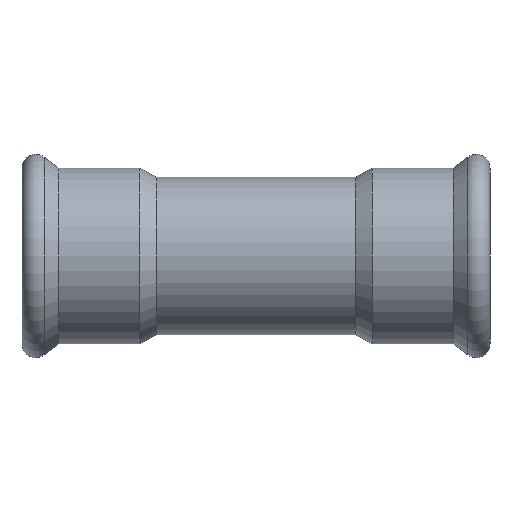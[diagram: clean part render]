
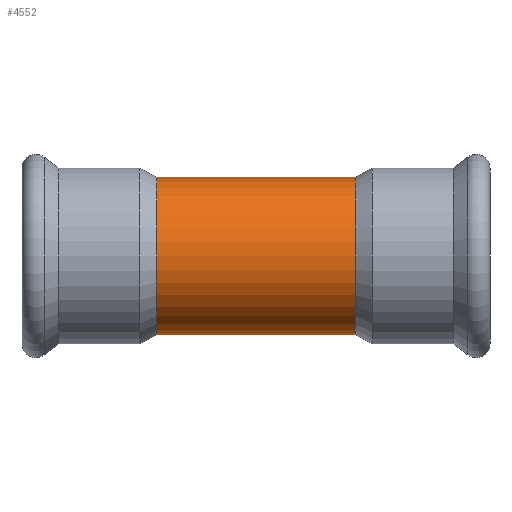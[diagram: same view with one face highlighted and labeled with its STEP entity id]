
A CAD part, front view. The second image highlights one B-rep face of the part: STEP entity #4552.
In plain terms, the highlighted cylindrical face has radius 17.15 mm (diameter 34.3 mm), a partial arc.
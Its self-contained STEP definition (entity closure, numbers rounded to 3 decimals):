
#1 = VERTEX_POINT ( 'NONE', #2812 ) ;
#22 = VECTOR ( 'NONE', #6081, 1000. ) ;
#354 = CYLINDRICAL_SURFACE ( 'NONE', #2174, 17.15 ) ;
#371 = ORIENTED_EDGE ( 'NONE', *, *, #5768, .F. ) ;
#384 = CARTESIAN_POINT ( 'NONE',  ( 0., 0., 0. ) ) ;
#832 = CARTESIAN_POINT ( 'NONE',  ( -21.626, 0., 0. ) ) ;
#839 = DIRECTION ( 'NONE',  ( 0., 0., 1. ) ) ;
#958 = EDGE_CURVE ( 'NONE', #2994, #4315, #5662, .T. ) ;
#1460 = CARTESIAN_POINT ( 'NONE',  ( 21.626, 0., 0. ) ) ;
#2174 = AXIS2_PLACEMENT_3D ( 'NONE', #384, #2975, #839 ) ;
#2809 = EDGE_CURVE ( 'NONE', #3091, #1, #3355, .T. ) ;
#2812 = CARTESIAN_POINT ( 'NONE',  ( -21.626, 0., 17.15 ) ) ;
#2828 = DIRECTION ( 'NONE',  ( -1., 0., 0. ) ) ;
#2963 = DIRECTION ( 'NONE',  ( -1., 0., 0. ) ) ;
#2975 = DIRECTION ( 'NONE',  ( -1., 0., 0. ) ) ;
#2994 = VERTEX_POINT ( 'NONE', #6181 ) ;
#3091 = VERTEX_POINT ( 'NONE', #4117 ) ;
#3184 = CIRCLE ( 'NONE', #5284, 17.15 ) ;
#3355 = LINE ( 'NONE', #5458, #6624 ) ;
#3762 = DIRECTION ( 'NONE',  ( -1., 0., 0. ) ) ;
#3977 = CARTESIAN_POINT ( 'NONE',  ( 0., 0., -17.15 ) ) ;
#4117 = CARTESIAN_POINT ( 'NONE',  ( 21.626, 0., 17.15 ) ) ;
#4137 = ORIENTED_EDGE ( 'NONE', *, *, #958, .F. ) ;
#4315 = VERTEX_POINT ( 'NONE', #6780 ) ;
#4338 = AXIS2_PLACEMENT_3D ( 'NONE', #832, #2828, #4526 ) ;
#4442 = CIRCLE ( 'NONE', #4338, 17.15 ) ;
#4526 = DIRECTION ( 'NONE',  ( 0., 0., 1. ) ) ;
#4552 = ADVANCED_FACE ( 'NONE', ( #4596 ), #354, .T. ) ;
#4558 = DIRECTION ( 'NONE',  ( 0., 0., 1. ) ) ;
#4596 = FACE_OUTER_BOUND ( 'NONE', #6595, .T. ) ;
#4895 = EDGE_CURVE ( 'NONE', #2994, #3091, #3184, .T. ) ;
#5284 = AXIS2_PLACEMENT_3D ( 'NONE', #1460, #2963, #4558 ) ;
#5328 = ORIENTED_EDGE ( 'NONE', *, *, #2809, .T. ) ;
#5458 = CARTESIAN_POINT ( 'NONE',  ( 0., 0., 17.15 ) ) ;
#5662 = LINE ( 'NONE', #3977, #22 ) ;
#5768 = EDGE_CURVE ( 'NONE', #4315, #1, #4442, .T. ) ;
#5788 = ORIENTED_EDGE ( 'NONE', *, *, #4895, .T. ) ;
#6081 = DIRECTION ( 'NONE',  ( -1., 0., 0. ) ) ;
#6181 = CARTESIAN_POINT ( 'NONE',  ( 21.626, 0., -17.15 ) ) ;
#6595 = EDGE_LOOP ( 'NONE', ( #4137, #5788, #5328, #371 ) ) ;
#6624 = VECTOR ( 'NONE', #3762, 1000. ) ;
#6780 = CARTESIAN_POINT ( 'NONE',  ( -21.626, 0., -17.15 ) ) ;
